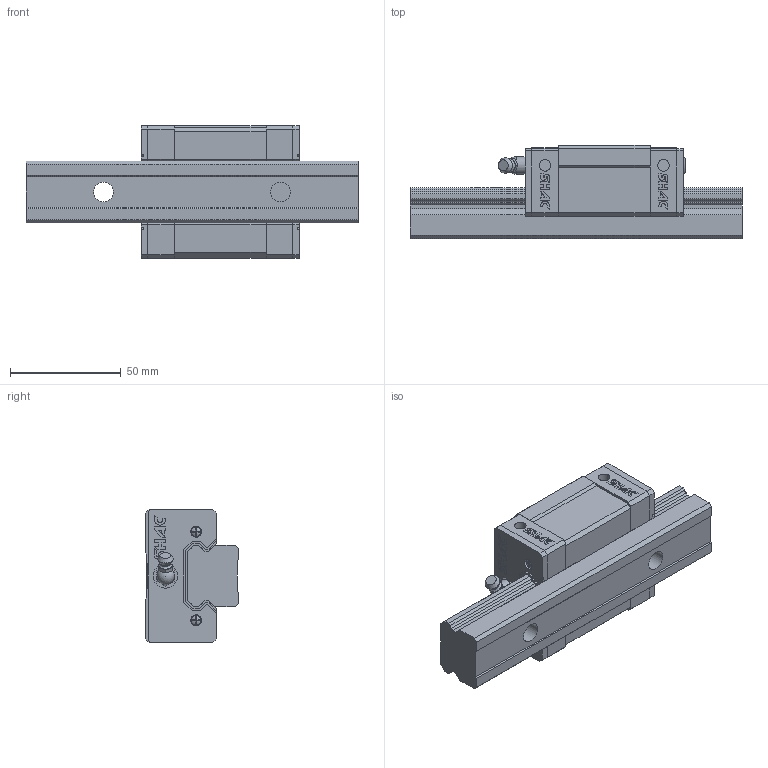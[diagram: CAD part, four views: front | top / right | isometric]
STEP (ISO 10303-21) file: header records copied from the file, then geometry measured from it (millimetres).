
FILE_DESCRIPTION( ( 'STEP AP214' ), '1' );
FILE_NAME( 'F:/品牌/SHAC 台湾鼎翰传动科技有限公司/3D滑块/GEH30SA1U150Z0C-35_35_1__.stp', '2025-04-21T22:50:58', ( 'License CC BY-ND 4.0' ), ( 'CADENAS' ), ' ', 'PARTsolutions', ' ' );
FILE_SCHEMA( ( 'AUTOMOTIVE_DESIGN { 1 0 10303 214 1 1 1 1 }' ) );
Length unit declared in the file: millimetre
Products named in the file (8): GEH30SA1U150Z0C-35/35(1_); _GE30SU150-35/35(2U)_RAIL; _GEH30SA_slider; _GES30_C; _GES30_P; _GH30_SCREW; _GH30_BOLT; _GH30-_G
Assembly tree (12 placements, depth 2):
  GEH30SA1U150Z0C-35/35(1_)
    _GE30SU150-35/35(2U)_RAIL
    _GEH30SA_slider
    _GES30_C  x2
    _GES30_P  x2
    _GH30_SCREW  x4
    _GH30_BOLT
    _GH30-_G
Bounding box: 150 x 42 x 60 mm (x, y, z)
Volume: 193126.9 mm3; surface area: 50656.2 mm2
Topology: 12 solids, 12 shells, 732 faces, 1953 edges, 1293 vertices
Faces by surface type: plane 603, cylinder 99, cone 18, torus 6, sphere 5, bspline 1
Full cylindrical faces by diameter (mm): 2.2 x4, 4.5 x1, 4.65 x4, 5 x4, 5.2 x4, 6 x2, 6.5 x2, 6.647 x2, 7.1 x2, 8 x1, 8.2 x1, 9 x2, 11 x2, 14 x2
Entity records: 16979 total; most frequent: CARTESIAN_POINT 2518, ORIENTED_EDGE 2238, DIRECTION 2142, EDGE_CURVE 1119, LINE 934, VECTOR 934, VERTEX_POINT 760, AXIS2_PLACEMENT_3D 604
